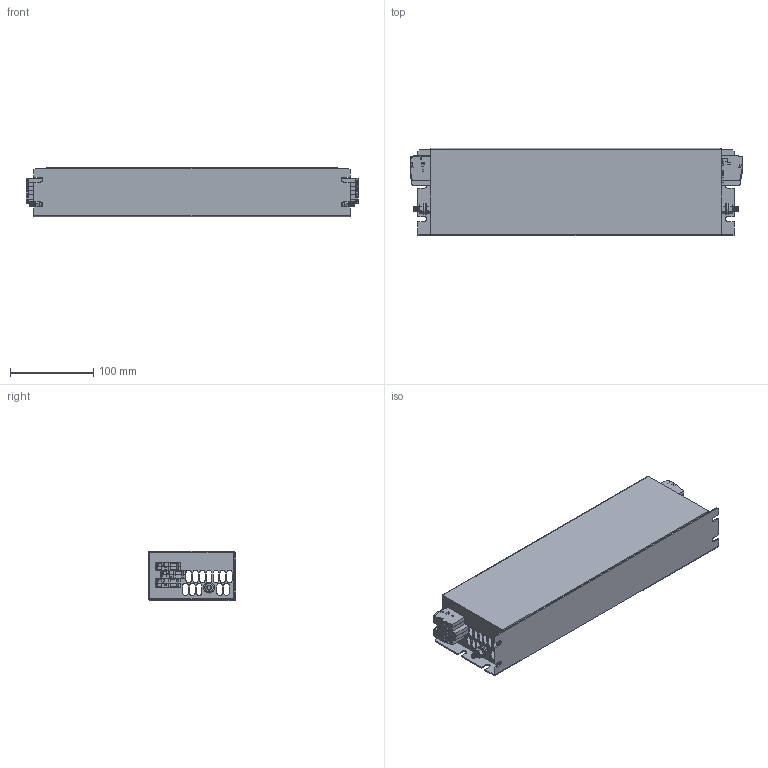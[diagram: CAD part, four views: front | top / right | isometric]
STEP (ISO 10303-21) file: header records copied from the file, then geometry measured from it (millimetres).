
FILE_DESCRIPTION (( 'STEP AP203' ), '1' );
FILE_NAME ('NF-KC-DAR2-40-3.STEP', '2025-09-25T14:31:39', ( '' ), ( '' ), 'SwSTEP 2.0', 'SolidWorks 2017', '' );
FILE_SCHEMA (( 'CONFIG_CONTROL_DESIGN' ));
Length unit declared in the file: millimetre
Products named in the file (7): WGK10-VP; NF-KC-DAR2-40-3; hex screw_am (dont use)_B18.6.7M - M6 x 1.0 x 16 Indented HHMS --16S; flat washer narrow_am_B18.22M - Plain washer, 6 mm, narrow; hex nut style 1_am_B18.2.4.1M - Hex nut, Style 1,  M6 x 1 --D-N; M6x16 Earth post
Assembly tree (13 placements, depth 3):
  NF-KC-DAR2-40-3
    NF-KC-DAR2-40-3
    M6x16 Earth post  x2
      flat washer narrow_am_B18.22M - Plain washer, 6 mm, narrow
      hex nut style 1_am_B18.2.4.1M - Hex nut, Style 1,  M6 x 1 --D-N
      hex screw_am (dont use)_B18.6.7M - M6 x 1.0 x 16 Indented HHMS --16S
    WGK10-VP  x6
Bounding box: 399 x 105 x 60 mm (x, y, z)
Volume: 257349.9 mm3; surface area: 327363.8 mm2
Topology: 34 solids, 34 shells, 2146 faces, 5660 edges, 3704 vertices
Faces by surface type: plane 1553, cylinder 423, cone 168, sphere 2
Entity records: 26443 total; most frequent: CARTESIAN_POINT 4571, DIRECTION 4386, ORIENTED_EDGE 4328, EDGE_CURVE 2164, VECTOR 1476, LINE 1476, AXIS2_PLACEMENT_3D 1455, VERTEX_POINT 1416
